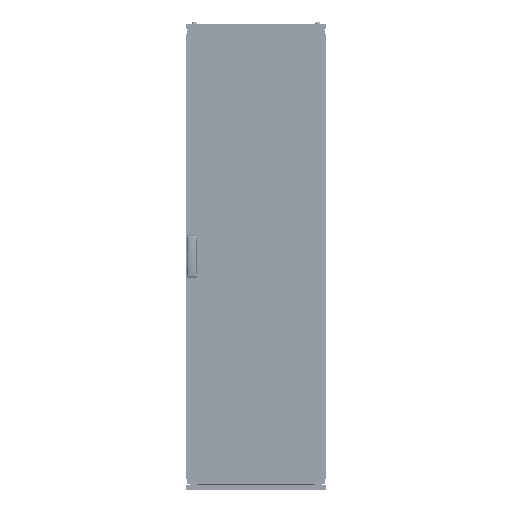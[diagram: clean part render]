
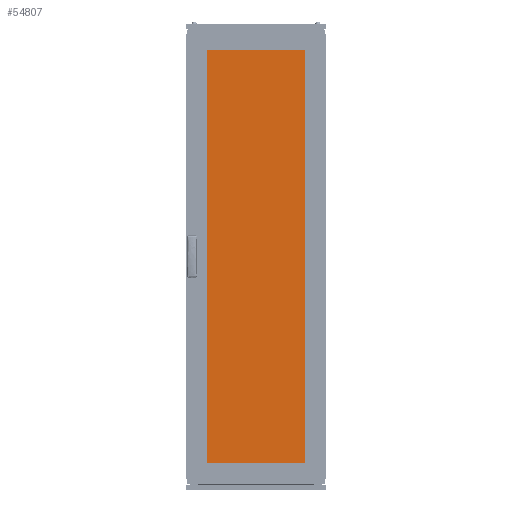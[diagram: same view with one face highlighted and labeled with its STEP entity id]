
A CAD part, top view. The second image highlights one B-rep face of the part: STEP entity #54807.
In plain terms, the highlighted planar face has unit normal (0, 0, 1).
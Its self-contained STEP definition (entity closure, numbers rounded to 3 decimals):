
#4 = DIRECTION ( 'NONE',  ( -1., 0., 0. ) ) ;
#9457 = VECTOR ( 'NONE', #206732, 1000. ) ;
#22254 = CARTESIAN_POINT ( 'NONE',  ( 230., -910., 5. ) ) ;
#23533 = DIRECTION ( 'NONE',  ( 0., -1., 0. ) ) ;
#23857 = CARTESIAN_POINT ( 'NONE',  ( -230., 910., 5. ) ) ;
#24645 = EDGE_CURVE ( 'NONE', #130571, #216060, #174837, .T. ) ;
#27767 = CARTESIAN_POINT ( 'NONE',  ( -230., -910., 5. ) ) ;
#28819 = LINE ( 'NONE', #27767, #151792 ) ;
#30481 = VECTOR ( 'NONE', #112154, 1000. ) ;
#30553 = CARTESIAN_POINT ( 'NONE',  ( 230., -910., 5. ) ) ;
#31620 = LINE ( 'NONE', #30553, #30481 ) ;
#49261 = EDGE_CURVE ( 'NONE', #216060, #165557, #208532, .T. ) ;
#54807 = ADVANCED_FACE ( 'NONE', ( #80441 ), #179724, .F. ) ;
#56160 = EDGE_CURVE ( 'NONE', #117171, #130571, #31620, .T. ) ;
#58091 = EDGE_LOOP ( 'NONE', ( #71983, #204876, #123048, #163841 ) ) ;
#69391 = CARTESIAN_POINT ( 'NONE',  ( -230., 910., 5. ) ) ;
#71983 = ORIENTED_EDGE ( 'NONE', *, *, #56160, .T. ) ;
#80441 = FACE_OUTER_BOUND ( 'NONE', #58091, .T. ) ;
#82411 = VECTOR ( 'NONE', #23533, 1000. ) ;
#83934 = CARTESIAN_POINT ( 'NONE',  ( 230., 910., 5. ) ) ;
#98105 = CARTESIAN_POINT ( 'NONE',  ( 0., 0., 5. ) ) ;
#103552 = CARTESIAN_POINT ( 'NONE',  ( -230., -910., 5. ) ) ;
#112154 = DIRECTION ( 'NONE',  ( 0., 1., 0. ) ) ;
#117171 = VERTEX_POINT ( 'NONE', #22254 ) ;
#123048 = ORIENTED_EDGE ( 'NONE', *, *, #49261, .T. ) ;
#130571 = VERTEX_POINT ( 'NONE', #83934 ) ;
#144518 = DIRECTION ( 'NONE',  ( 1., 0., 0. ) ) ;
#151792 = VECTOR ( 'NONE', #144518, 1000. ) ;
#163841 = ORIENTED_EDGE ( 'NONE', *, *, #215859, .T. ) ;
#165557 = VERTEX_POINT ( 'NONE', #103552 ) ;
#173376 = CARTESIAN_POINT ( 'NONE',  ( -230., -910., 5. ) ) ;
#174837 = LINE ( 'NONE', #23857, #9457 ) ;
#179724 = PLANE ( 'NONE',  #215483 ) ;
#182963 = DIRECTION ( 'NONE',  ( 0., 0., -1. ) ) ;
#204876 = ORIENTED_EDGE ( 'NONE', *, *, #24645, .T. ) ;
#206732 = DIRECTION ( 'NONE',  ( -1., 0., 0. ) ) ;
#208532 = LINE ( 'NONE', #173376, #82411 ) ;
#215483 = AXIS2_PLACEMENT_3D ( 'NONE', #98105, #182963, #4 ) ;
#215859 = EDGE_CURVE ( 'NONE', #165557, #117171, #28819, .T. ) ;
#216060 = VERTEX_POINT ( 'NONE', #69391 ) ;
